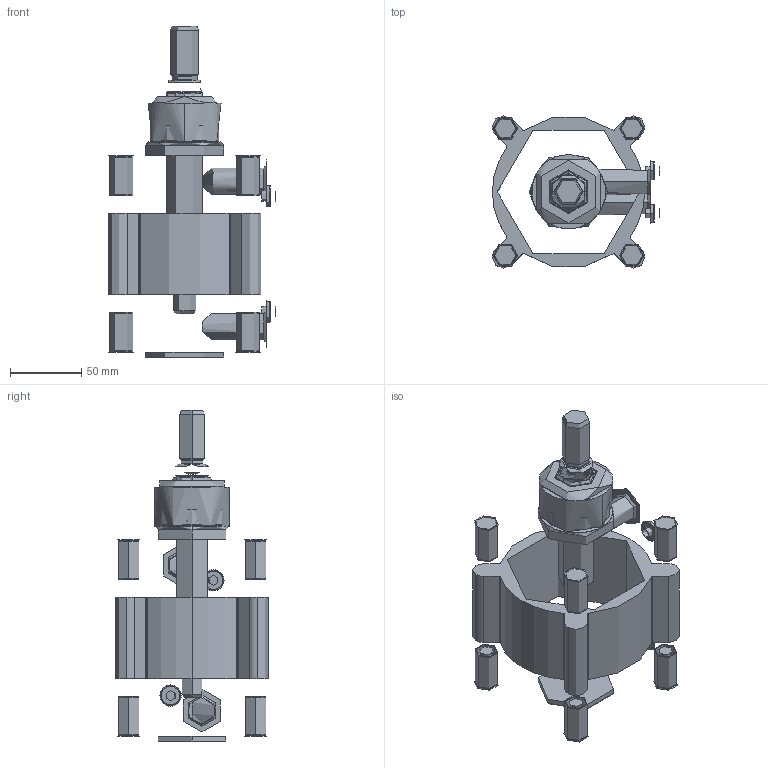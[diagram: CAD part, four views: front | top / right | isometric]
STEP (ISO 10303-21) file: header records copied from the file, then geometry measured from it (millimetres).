
FILE_DESCRIPTION(('STEP AP214'),'1');
FILE_NAME('81MVD100AJ0000.stp','2016-07-26T08:38:20',(' '),(' '),'Spatial InterOp 3D',' ',' ');
FILE_SCHEMA(('automotive_design'));
Length unit declared in the file: millimetre
Products named in the file (5): 81MVD100AJ0000; TA; TP; Tige; TUB100VD
Assembly tree (4 placements, depth 2):
  81MVD100AJ0000
    TA
    TP
    Tige
    TUB100VD
Bounding box: 117.54 x 107.07 x 233 mm (x, y, z)
Topology: 13 solids, 243 shells, 651 faces, 1083 edges, 715 vertices
Faces by surface type: cylinder 206, plane 195, cone 180, torus 70
Full cylindrical faces by diameter (mm): 7 x4, 12 x24, 24.5 x2, 26 x12, 110 x8
Entity records: 24261 total; most frequent: CARTESIAN_POINT 3915, DIRECTION 3488, ORIENTED_EDGE 2994, EDGE_CURVE 1497, AXIS2_PLACEMENT_3D 1428, VERTEX_POINT 917, CIRCLE 776, EDGE_LOOP 696
